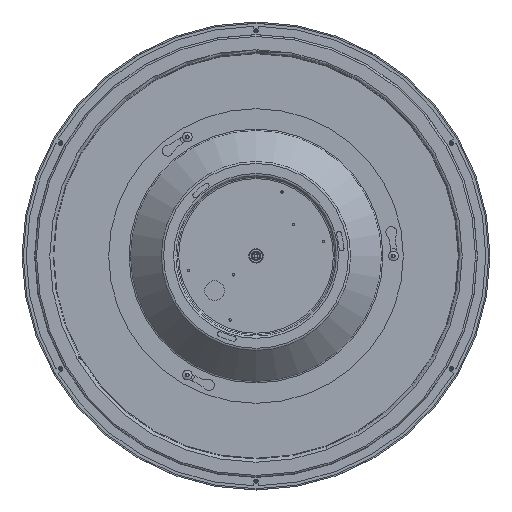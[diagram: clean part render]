
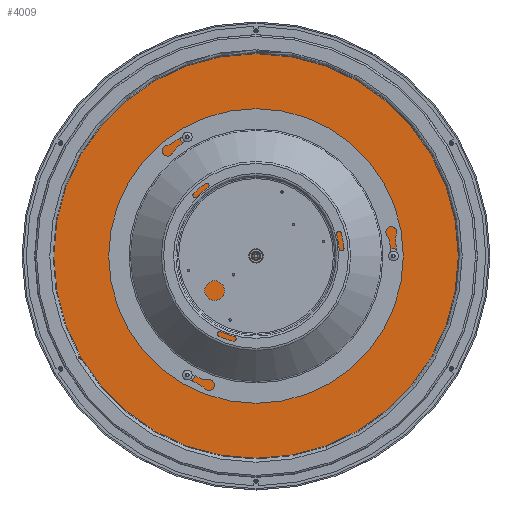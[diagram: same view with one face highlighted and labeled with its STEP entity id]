
A CAD part, top view. The second image highlights one B-rep face of the part: STEP entity #4009.
In plain terms, the highlighted planar face has unit normal (0, 0, 1).
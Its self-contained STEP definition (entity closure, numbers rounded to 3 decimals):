
#894=ORIENTED_EDGE('',*,*,#1955,.F.);
#895=ORIENTED_EDGE('',*,*,#1956,.F.);
#896=ORIENTED_EDGE('',*,*,#1957,.F.);
#897=ORIENTED_EDGE('',*,*,#1958,.F.);
#898=ORIENTED_EDGE('',*,*,#1959,.F.);
#899=ORIENTED_EDGE('',*,*,#1954,.F.);
#1954=EDGE_CURVE('',#2489,#2489,#2869,.T.);
#1955=EDGE_CURVE('',#2490,#2490,#2870,.T.);
#1956=EDGE_CURVE('',#2491,#2491,#2871,.T.);
#1957=EDGE_CURVE('',#2492,#2492,#2872,.T.);
#1958=EDGE_CURVE('',#2493,#2493,#2873,.T.);
#1959=EDGE_CURVE('',#2494,#2494,#2874,.T.);
#2489=VERTEX_POINT('',#7564);
#2490=VERTEX_POINT('',#7567);
#2491=VERTEX_POINT('',#7569);
#2492=VERTEX_POINT('',#7571);
#2493=VERTEX_POINT('',#7573);
#2494=VERTEX_POINT('',#7575);
#2869=CIRCLE('',#5418,206.);
#2870=CIRCLE('',#5420,2.);
#2871=CIRCLE('',#5421,2.);
#2872=CIRCLE('',#5422,2.);
#2873=CIRCLE('',#5423,2.);
#2874=CIRCLE('',#5424,2.);
#3161=EDGE_LOOP('',(#894));
#3162=EDGE_LOOP('',(#895));
#3163=EDGE_LOOP('',(#896));
#3164=EDGE_LOOP('',(#897));
#3165=EDGE_LOOP('',(#898));
#3166=EDGE_LOOP('',(#899));
#3552=FACE_BOUND('',#3161,.T.);
#3553=FACE_BOUND('',#3162,.T.);
#3554=FACE_BOUND('',#3163,.T.);
#3555=FACE_BOUND('',#3164,.T.);
#3556=FACE_BOUND('',#3165,.T.);
#3557=FACE_BOUND('',#3166,.T.);
#3869=PLANE('',#5419);
#4009=ADVANCED_FACE('',(#3552,#3553,#3554,#3555,#3556,#3557),#3869,.T.);
#5418=AXIS2_PLACEMENT_3D('',#7563,#6174,#6175);
#5419=AXIS2_PLACEMENT_3D('',#7565,#6176,#6177);
#5420=AXIS2_PLACEMENT_3D('',#7566,#6178,#6179);
#5421=AXIS2_PLACEMENT_3D('',#7568,#6180,#6181);
#5422=AXIS2_PLACEMENT_3D('',#7570,#6182,#6183);
#5423=AXIS2_PLACEMENT_3D('',#7572,#6184,#6185);
#5424=AXIS2_PLACEMENT_3D('',#7574,#6186,#6187);
#6174=DIRECTION('',(0.,0.,-1.));
#6175=DIRECTION('',(-1.,0.,0.));
#6176=DIRECTION('',(0.,0.,1.));
#6177=DIRECTION('',(1.,0.,0.));
#6178=DIRECTION('',(0.,0.,1.));
#6179=DIRECTION('',(1.,0.,0.));
#6180=DIRECTION('',(0.,0.,1.));
#6181=DIRECTION('',(1.,0.,0.));
#6182=DIRECTION('',(0.,0.,1.));
#6183=DIRECTION('',(1.,0.,0.));
#6184=DIRECTION('',(0.,0.,1.));
#6185=DIRECTION('',(1.,0.,0.));
#6186=DIRECTION('',(0.,0.,1.));
#6187=DIRECTION('',(1.,0.,0.));
#7563=CARTESIAN_POINT('',(0.,0.,10.));
#7564=CARTESIAN_POINT('',(-206.,0.,10.));
#7565=CARTESIAN_POINT('',(0.,-193.,10.));
#7566=CARTESIAN_POINT('',(0.,0.,10.));
#7567=CARTESIAN_POINT('',(2.,0.,10.));
#7568=CARTESIAN_POINT('',(110.,0.,10.));
#7569=CARTESIAN_POINT('',(112.,0.,10.));
#7570=CARTESIAN_POINT('',(-121.244,-70.,10.));
#7571=CARTESIAN_POINT('',(-119.244,-70.,10.));
#7572=CARTESIAN_POINT('',(121.244,-70.,10.));
#7573=CARTESIAN_POINT('',(123.244,-70.,10.));
#7574=CARTESIAN_POINT('',(0.,140.,10.));
#7575=CARTESIAN_POINT('',(2.,140.,10.));
